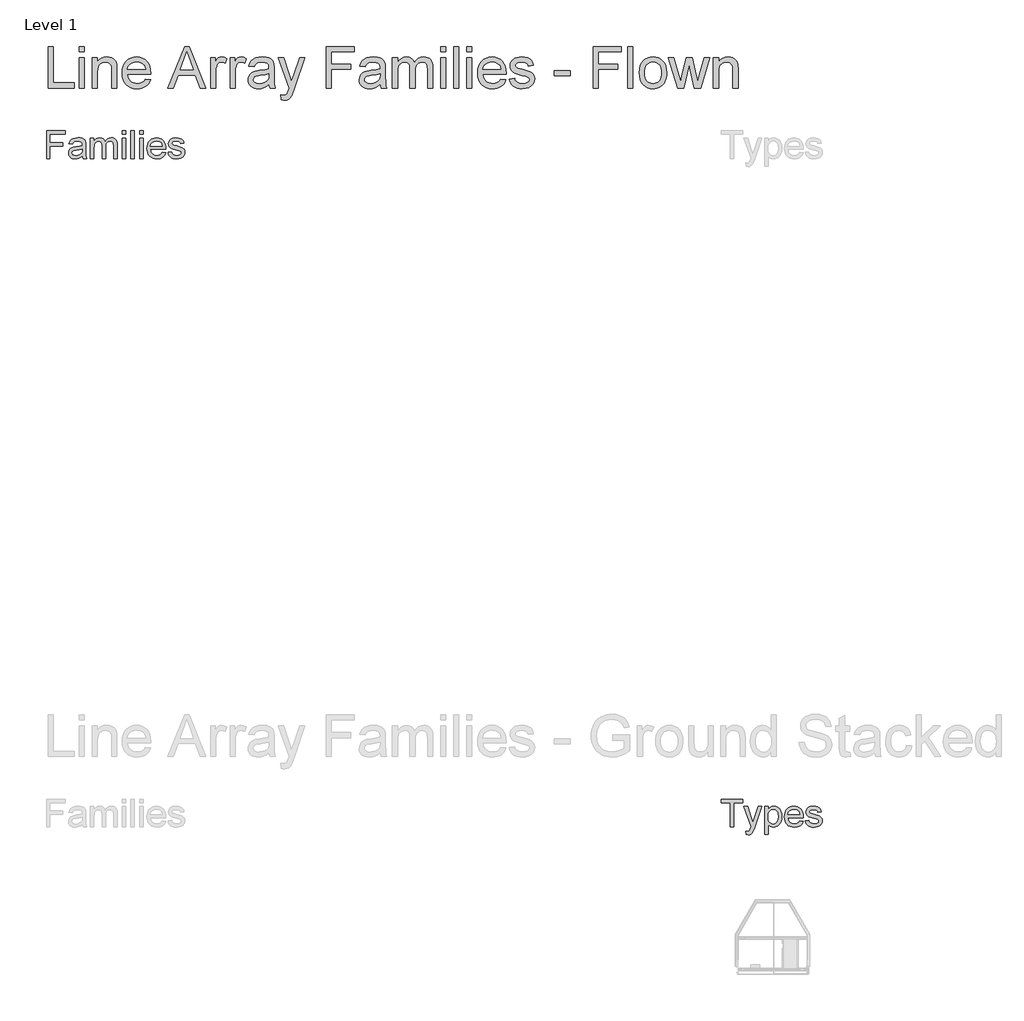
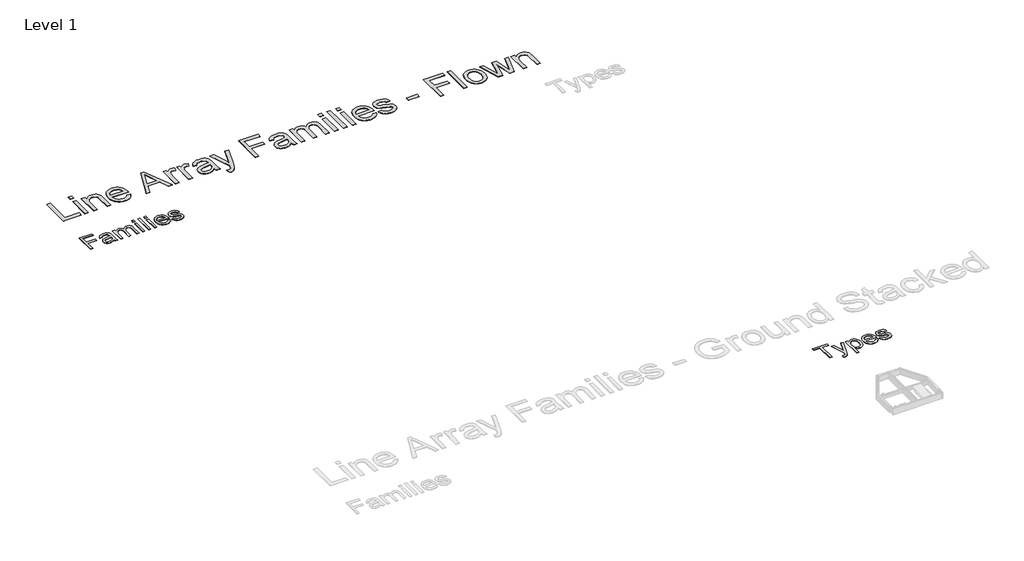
# One storey, part 4 of 7: 3 proxies.
"""IFC4 building model written with IfcOpenShell, lengths in millimetres."""

import ifcopenshell
import ifcopenshell.guid

model = None  # the IFC model being written
_history = None  # IfcOwnerHistory: only IFC2X3 demands one
_inside = {}  # id of a spatial element -> (the spatial element, [elements in it])
_under = {}  # id of a project, library or spatial element -> (it, [spatial elements below it])
_declared = {}  # id of a project -> (the project, [libraries it declares])
_typed = {}  # id of a type object -> (the type object, [elements of that type])
_made_of = {}  # id of a material, layer set ... -> (it, [elements and type objects made of it])


def new_model(schema):
    """Start an empty IFC model of exactly this schema.

    Asked for "IFC4X3", IfcOpenShell would pick the latest addendum, in which some entities
    have other attributes; the version numbers below select the first issue.
    IFC2X3 requires an IfcOwnerHistory on every rooted entity: one is made here for all.
    """
    global model, _history
    if schema == "IFC4X3":
        model = ifcopenshell.file(schema_version=(4, 3, 0, 0))
    else:
        model = ifcopenshell.file(schema=schema)
    _inside.clear()
    _under.clear()
    _declared.clear()
    _typed.clear()
    _made_of.clear()
    _history = None
    if model.schema == "IFC2X3":
        org = make("IfcOrganization", Name="unknown")
        user = make(
            "IfcPersonAndOrganization",
            ThePerson=make("IfcPerson", FamilyName="unknown"),
            TheOrganization=org,
        )
        app = make(
            "IfcApplication",
            ApplicationDeveloper=org,
            Version="unknown",
            ApplicationFullName="unknown",
            ApplicationIdentifier="unknown",
        )
        _history = make(
            "IfcOwnerHistory",
            OwningUser=user,
            OwningApplication=app,
            ChangeAction="ADDED",
            CreationDate=0,
        )
    return model


def make(cls, **values):
    """One entity of the class cls with the attributes given. An attribute that is None is left unset."""
    return model.create_entity(
        cls, **{name: value for name, value in values.items() if value is not None}
    )


def rooted(cls, **values):
    """An entity with a GlobalId (a new one), such as an element, a storey or a relation."""
    return make(cls, GlobalId=ifcopenshell.guid.new(), OwnerHistory=_history, **values)


def si_unit(unit_type, name, prefix=None):
    """IfcSIUnit, for example si_unit("LENGTHUNIT", "METRE", prefix="MILLI")."""
    return make("IfcSIUnit", UnitType=unit_type, Prefix=prefix, Name=name)


def assignment(units):
    """IfcUnitAssignment: the units of a project."""
    return None if units is None else make("IfcUnitAssignment", Units=units)


def point(xyz):
    """IfcCartesianPoint."""
    return None if xyz is None else make("IfcCartesianPoint", Coordinates=xyz)


def direction(xyz):
    """IfcDirection."""
    return None if xyz is None else make("IfcDirection", DirectionRatios=xyz)


def frame(location, z_axis=None, x_axis=None):
    """IfcAxis2Placement3D, a coordinate frame: its origin and axes. An axis left out is left unset."""
    return make(
        "IfcAxis2Placement3D",
        Location=point(location),
        Axis=direction(z_axis),
        RefDirection=direction(x_axis),
    )


def origin():
    """The frame at (0, 0, 0) with its axes left unset."""
    return frame((0.0, 0.0, 0.0))


def origin_with_axes():
    """The frame at (0, 0, 0) with the z axis (0, 0, 1) and the x axis (1, 0, 0) written out."""
    return frame((0.0, 0.0, 0.0), z_axis=(0.0, 0.0, 1.0), x_axis=(1.0, 0.0, 0.0))


def place(relative_to, where):
    """IfcLocalPlacement: puts the frame where relative to a parent placement (None: the world)."""
    return make(
        "IfcLocalPlacement", PlacementRelTo=relative_to, RelativePlacement=where
    )


def context(
    kind, dimensions, precision=None, world=None, true_north=None, identifier=None
):
    """IfcGeometricRepresentationContext, for example the 3D "Model" context."""
    return make(
        "IfcGeometricRepresentationContext",
        ContextIdentifier=identifier,
        ContextType=kind,
        CoordinateSpaceDimension=dimensions,
        Precision=precision,
        WorldCoordinateSystem=world,
        TrueNorth=true_north,
    )


def project(units=None, contexts=None):
    """IfcProject with its units and contexts."""
    return rooted(
        "IfcProject",
        Name="project",
        RepresentationContexts=contexts,
        UnitsInContext=assignment(units),
    )


def spatial(cls, under=None, at=None, **own):
    """A site, building, storey or space (cls), placed at a placement, below another one or the project."""
    s = rooted(cls, ObjectPlacement=at, **own)
    if under is not None:
        _under.setdefault(under.id(), (under, []))[1].append(s)
    return s


def polyline(points):
    """IfcPolyline through the points."""
    return make("IfcPolyline", Points=[point(p) for p in points])


def outline(outer, holes=None, kind="AREA"):
    """IfcArbitraryClosedProfileDef: a profile drawn as a closed curve; with holes, ...WithVoids."""
    if holes is None:
        return make("IfcArbitraryClosedProfileDef", ProfileType=kind, OuterCurve=outer)
    return make(
        "IfcArbitraryProfileDefWithVoids",
        ProfileType=kind,
        OuterCurve=outer,
        InnerCurves=holes,
    )


def extrude(swept, where, along, depth):
    """IfcExtrudedAreaSolid: the profile swept, set in the frame where, extruded along a direction by depth."""
    return make(
        "IfcExtrudedAreaSolid",
        SweptArea=swept,
        Position=where,
        ExtrudedDirection=direction(along),
        Depth=depth,
    )


def shape(context_of_items, identifier, shape_type, items):
    """IfcShapeRepresentation: the items that make up one representation, for example the "Body"."""
    return make(
        "IfcShapeRepresentation",
        ContextOfItems=context_of_items,
        RepresentationIdentifier=identifier,
        RepresentationType=shape_type,
        Items=items,
    )


def made_of(thing, what):
    """Note that an element or type object is made of a material, layer set ...; save() writes the relation."""
    if what is not None:
        _made_of.setdefault(what.id(), (what, []))[1].append(thing)
    return thing


def element(
    cls,
    number,
    at=None,
    inside=None,
    cuts=None,
    type_object=None,
    material=None,
    context=None,
    identifier="Body",
    shape_type=None,
    held_by="IfcProductDefinitionShape",
    body=None,
    shapes=None,
    **own,
):
    """One element of the class cls, such as IfcWall. Its Tag is "e" and its number.

    at: its placement. inside: the storey or other place that contains it. cuts: it is an
    opening in that element (IfcRelVoidsElement). A single representation is given by context,
    identifier, shape_type and body (its items); several are given by shapes. held_by: the class
    of the entity that holds the representations. save() writes the other relations.
    """
    e = rooted(cls, Tag="e%d" % number, ObjectPlacement=at, **own)
    if body is not None:
        shapes = [shape(context, identifier, shape_type, body)]
    if shapes is not None:
        e.Representation = make(held_by, Representations=shapes)
    if inside is not None:
        _inside.setdefault(inside.id(), (inside, []))[1].append(e)
    if cuts is not None:
        rooted(
            "IfcRelVoidsElement", RelatingBuildingElement=cuts, RelatedOpeningElement=e
        )
    if type_object is not None:
        _typed.setdefault(type_object.id(), (type_object, []))[1].append(e)
    return made_of(e, material)


def aggregate(whole, parts):
    """IfcRelAggregates: a whole, such as a stair, and the parts it consists of."""
    return rooted("IfcRelAggregates", RelatingObject=whole, RelatedObjects=parts)


def save(model, path):
    """Write the relations noted so far, then the file.

    IfcRelAggregates (storeys below a building ...), IfcRelContainedInSpatialStructure (elements
    in a storey), IfcRelDefinesByType, IfcRelAssociatesMaterial and IfcRelDeclares: one each for
    every whole, place, type object, material and project.
    """
    for whole, parts in _under.values():
        aggregate(whole, parts)
    for where, things in _inside.values():
        rooted(
            "IfcRelContainedInSpatialStructure",
            RelatedElements=things,
            RelatingStructure=where,
        )
    for kind, things in _typed.values():
        rooted("IfcRelDefinesByType", RelatedObjects=things, RelatingType=kind)
    for what, things in _made_of.values():
        rooted("IfcRelAssociatesMaterial", RelatedObjects=things, RelatingMaterial=what)
    for by, libraries in _declared.values():
        rooted("IfcRelDeclares", RelatingContext=by, RelatedDefinitions=libraries)
    model.write(path)


model = new_model("IFC4")

# Units and contexts
model_context = context("Model", 3, world=origin())
ifc_project = project(units=[si_unit("LENGTHUNIT", "METRE", prefix="MILLI")], contexts=[model_context])

# Site, building, storey
site = spatial("IfcSite", under=ifc_project)
building = spatial("IfcBuilding", under=site)
storey = spatial("IfcBuildingStorey", under=building, Name="Level 1", Elevation=0.0)

# Proxies
placement = place(None, origin())
element("IfcBuildingElementProxy", 1, Name="400mm Arial", ObjectType="400mm Arial", at=placement, inside=storey, context=model_context, shape_type="SweptSolid", body=[
    extrude(outline(polyline([(-21056.720891, 6751.3054836), (-21056.720891, 7143.0630593), (-20793.5087698, 7143.0630593), (-20793.5087698, 7094.0933624), (-21007.7511941, 7094.0933624), (-21007.7511941, 6977.7903321), (-20824.1148304, 6977.7903321), (-20824.1148304, 6928.8206351), (-21007.7511941, 6928.8206351), (-21007.7511941, 6751.3054836), (-21056.720891, 6751.3054836)])), origin_with_axes(), (0.0, 0.0, 1.0), 5.0),
    extrude(outline(polyline([(-20548.660285, 6788.0327563), (-20572.0571836, 6767.97144), (-20596.1475009, 6754.8443093), (-20621.4811893, 6747.5992809), (-20648.6082016, 6745.1842715), (-20670.4120309, 6746.6368638), (-20689.5318522, 6750.9946408), (-20705.9676654, 6758.2576024), (-20719.7194706, 6768.4257487), (-20730.5780466, 6780.8534831), (-20738.3341723, 6794.895209), (-20742.9878477, 6810.5509263), (-20744.5390729, 6827.8206351), (-20742.1957963, 6848.1210612), (-20735.1659668, 6866.5564305), (-20724.3223352, 6882.3376805), (-20710.5376524, 6894.6757487), (-20676.2493001, 6910.7439305), (-20633.879035, 6918.1085139), (-20583.8094327, 6925.855673), (-20548.9472168, 6934.9418472), (-20548.660285, 6945.8452563), (-20552.0317338, 6967.6998965), (-20562.1460804, 6981.9986654), (-20584.7658721, 6992.6151427), (-20616.2805501, 6996.1539684), (-20645.4519516, 6993.7987364), (-20665.8241107, 6986.7330404), (-20679.7163929, 6973.6656872), (-20689.4481638, 6953.3054836), (-20738.4178607, 6959.4266957), (-20729.9175056, 6986.2069987), (-20717.2327282, 7007.2486654), (-20699.1799346, 7023.3407582), (-20674.5755312, 7035.2723396), (-20644.4835568, 7042.660834), (-20609.9680501, 7045.1236654), (-20576.8632916, 7042.9477658), (-20550.6209857, 7036.4200669), (-20530.8346458, 7026.6046076), (-20517.097785, 7014.5654268), (-20507.9876997, 6999.6808387), (-20502.0816865, 6981.3291578), (-20499.690588, 6938.480673), (-20499.690588, 6877.5554836), (-20497.2038456, 6792.4801995), (-20487.4481638, 6751.3054836), (-20536.4178607, 6751.3054836), (-20544.2606638, 6768.3301048), (-20548.660285, 6788.0327563)]), holes=[polyline([(-20548.660285, 6885.9721502), (-20581.5618001, 6877.8185044), (-20627.6621789, 6870.9560518), (-20669.7933342, 6863.0176048), (-20680.7565208, 6857.5898112), (-20688.8743001, 6850.105673), (-20693.8956069, 6841.1390536), (-20695.5693759, 6831.2638169), (-20691.9229507, 6816.7020271), (-20680.9836751, 6804.7704457), (-20662.990659, 6796.8080877), (-20638.1830122, 6794.1539684), (-20611.8809289, 6797.0830641), (-20588.6394516, 6805.870351), (-20569.7975956, 6818.8181493), (-20556.6943759, 6834.228779), (-20550.8840066, 6850.105673), (-20548.9472168, 6872.103779), (-20548.660285, 6885.9721502)])]), origin_with_axes(), (0.0, 0.0, 1.0), 5.0),
    extrude(outline(polyline([(-20432.3572547, 6751.3054836), (-20432.3572547, 7039.0024533), (-20383.3875577, 7039.0024533), (-20383.3875577, 6991.6587033), (-20368.658391, 7013.405744), (-20349.720891, 7030.4423207), (-20327.2206543, 7041.4533292), (-20301.8032774, 7045.1236654), (-20274.5686657, 7041.3815963), (-20252.7379365, 7030.1553889), (-20236.4306448, 7012.1862838), (-20225.7663456, 6988.2155215), (-20207.9167954, 7013.1128344), (-20187.5565918, 7030.8966294), (-20164.6857348, 7041.5669064), (-20139.3042244, 7045.1236654), (-20119.7002057, 7043.6441732), (-20102.4932632, 7039.2056966), (-20087.683397, 7031.8082357), (-20075.2706069, 7021.4517904), (-20065.4581365, 7008.0168058), (-20058.4492291, 6991.3837269), (-20054.2438846, 6971.5525539), (-20052.8421032, 6948.5232866), (-20052.8421032, 6751.3054836), (-20101.8118001, 6751.3054836), (-20101.8118001, 6927.4816199), (-20106.3548872, 6968.369404), (-20112.7391202, 6979.6434334), (-20122.8056448, 6988.5024533), (-20135.7534431, 6994.2410896), (-20150.7814971, 6996.1539684), (-20177.3107348, 6991.2522165), (-20198.9382206, 6976.5469608), (-20207.3279874, 6965.2669537), (-20213.320678, 6951.03394), (-20218.1148304, 6913.7088927), (-20218.1148304, 6751.3054836), (-20267.0845274, 6751.3054836), (-20267.0845274, 6932.9333245), (-20269.9179791, 6960.6222449), (-20278.4183342, 6980.3727184), (-20293.3746552, 6992.2086559), (-20315.5760047, 6996.1539684), (-20334.4417717, 6993.5237601), (-20351.8250577, 6985.6331351), (-20366.1716486, 6972.6733813), (-20375.9273304, 6954.8357866), (-20381.5225009, 6930.0879173), (-20383.3875577, 6896.3973396), (-20383.3875577, 6751.3054836), (-20432.3572547, 6751.3054836)])), origin_with_axes(), (0.0, 0.0, 1.0), 5.0),
    extrude(outline(polyline([(-19979.3875577, 6751.3054836), (-19979.3875577, 7039.0024533), (-19930.4178607, 7039.0024533), (-19930.4178607, 6751.3054836), (-19979.3875577, 6751.3054836)])), origin_with_axes(), (0.0, 0.0, 1.0), 5.0),
    extrude(outline(polyline([(-19979.3875577, 7094.0933624), (-19979.3875577, 7143.0630593), (-19930.4178607, 7143.0630593), (-19930.4178607, 7094.0933624), (-19979.3875577, 7094.0933624)])), origin_with_axes(), (0.0, 0.0, 1.0), 5.0),
    extrude(outline(polyline([(-19856.9633153, 6751.3054836), (-19856.9633153, 7143.0630593), (-19807.9936183, 7143.0630593), (-19807.9936183, 6751.3054836), (-19856.9633153, 6751.3054836)])), origin_with_axes(), (0.0, 0.0, 1.0), 5.0),
    extrude(outline(polyline([(-19734.5390729, 6751.3054836), (-19734.5390729, 7039.0024533), (-19685.5693759, 7039.0024533), (-19685.5693759, 6751.3054836), (-19734.5390729, 6751.3054836)])), origin_with_axes(), (0.0, 0.0, 1.0), 5.0),
    extrude(outline(polyline([(-19734.5390729, 7094.0933624), (-19734.5390729, 7143.0630593), (-19685.5693759, 7143.0630593), (-19685.5693759, 7094.0933624), (-19734.5390729, 7094.0933624)])), origin_with_axes(), (0.0, 0.0, 1.0), 5.0),
    extrude(outline(polyline([(-19410.6886941, 6837.0024533), (-19362.6754365, 6830.8812411), (-19370.0370309, 6811.6508316), (-19379.975034, 6794.7039211), (-19392.4894457, 6780.0405096), (-19407.580266, 6767.6605972), (-19425.0920736, 6757.8272047), (-19444.8694469, 6750.8033529), (-19491.220891, 6745.1842715), (-19521.605775, 6747.6082475), (-19548.6789876, 6754.8801758), (-19572.4405288, 6767.0000563), (-19592.8903986, 6783.9678889), (-19609.3351784, 6805.3114317), (-19621.0814497, 6830.5584429), (-19628.1292125, 6859.7089223), (-19630.4784668, 6892.7628699), (-19628.1053015, 6926.937645), (-19620.9858058, 6957.0595082), (-19609.1199796, 6983.1284594), (-19592.5078229, 7005.1444987), (-19572.1117528, 7022.6353841), (-19548.8941865, 7035.1288737), (-19522.855124, 7042.6249675), (-19493.9945653, 7045.1236654), (-19466.0635461, 7042.6309452), (-19440.8045795, 7035.1527847), (-19418.2176654, 7022.6891839), (-19398.3028039, 7005.2401427), (-19382.0463231, 6983.2719253), (-19370.4345511, 6957.2507961), (-19363.4674879, 6927.1767549), (-19361.1451335, 6893.0498018), (-19361.4320653, 6879.8509381), (-19581.5087698, 6879.8509381), (-19578.6723292, 6860.3096858), (-19573.0323257, 6843.1953983), (-19564.5887592, 6828.5080759), (-19553.3416297, 6816.2477184), (-19524.9234242, 6799.6774059), (-19490.2644516, 6794.1539684), (-19464.2014782, 6796.7124438), (-19442.2511941, 6804.3878699), (-19424.4135994, 6817.6584665), (-19410.6886941, 6837.0024533)]), holes=[polyline([(-19581.5087698, 6928.8206351), (-19410.1148304, 6928.8206351), (-19416.7381732, 6954.6923207), (-19429.721838, 6973.199423), (-19443.076123, 6983.2420366), (-19458.2715539, 6990.4153321), (-19494.1858532, 6996.1539684), (-19527.1949677, 6991.5750148), (-19554.4893569, 6977.838154), (-19573.4627234, 6956.4258671), (-19581.5087698, 6928.8206351)])]), origin_with_axes(), (0.0, 0.0, 1.0), 5.0),
    extrude(outline(polyline([(-19330.5390729, 6837.0024533), (-19281.5693759, 6843.1236654), (-19273.8461278, 6822.1776427), (-19258.9017622, 6806.7789684), (-19236.6406354, 6797.3102184), (-19206.9671032, 6794.1539684), (-19177.6522357, 6797.0471976), (-19157.0409668, 6805.7268851), (-19144.8463645, 6818.3040631), (-19140.7814971, 6832.8897639), (-19144.8702755, 6845.371298), (-19157.1366107, 6854.8878699), (-19207.5409668, 6868.8518851), (-19281.2824441, 6892.8106919), (-19299.9449677, 6904.8498728), (-19313.4666297, 6920.7865442), (-19321.680053, 6939.6044893), (-19324.4178607, 6960.2874911), (-19322.2180501, 6979.2608576), (-19315.6186183, 6996.775654), (-19305.2173399, 7012.1384618), (-19291.6119895, 7024.6558624), (-19260.4798872, 7039.1459192), (-19218.3487319, 7045.1236654), (-19186.4753891, 7042.7206114), (-19158.7625577, 7035.5114495), (-19136.4775198, 7024.2015536), (-19120.8875577, 7009.496298), (-19110.5580122, 6990.3077326), (-19104.0542244, 6965.5479078), (-19153.0239213, 6959.4266957), (-19159.2049109, 6974.8373254), (-19171.4353797, 6986.4461086), (-19189.8348825, 6993.7270035), (-19214.5229744, 6996.1539684), (-19242.6422925, 6993.8346029), (-19261.3885047, 6986.8765063), (-19271.933249, 6976.8338927), (-19275.4481638, 6965.260976), (-19269.6138835, 6951.010029), (-19251.345891, 6940.2022639), (-19209.1669138, 6929.7770745), (-19137.2904933, 6906.7268851), (-19118.3051713, 6895.7039211), (-19103.9107585, 6880.6160896), (-19094.8365397, 6861.4155688), (-19091.8118001, 6838.0545366), (-19095.3625814, 6813.9044419), (-19106.0149251, 6791.1890063), (-19123.3623446, 6771.6895982), (-19146.9983532, 6757.1875858), (-19175.5480691, 6748.1851), (-19207.6366107, 6745.1842715), (-19233.9924938, 6746.630886), (-19257.0127944, 6750.9707298), (-19276.6975127, 6758.2038027), (-19293.0466486, 6768.3301048), (-19306.4009336, 6781.3018141), (-19317.1010994, 6797.0711086), (-19325.1471458, 6815.6379883), (-19330.5390729, 6837.0024533)])), origin_with_axes(), (0.0, 0.0, 1.0), 5.0),
])
element("IfcBuildingElementProxy", 2, Name="400mm Arial", ObjectType="400mm Arial", at=placement, inside=storey, context=model_context, shape_type="SweptSolid", body=[
    extrude(outline(polyline([(-11345.9583027, -2748.6945164), (-11345.9583027, -2405.9066376), (-11474.5037572, -2405.9066376), (-11474.5037572, -2356.9369407), (-11168.4431512, -2356.9369407), (-11168.4431512, -2405.9066376), (-11296.9886057, -2405.9066376), (-11296.9886057, -2748.6945164), (-11345.9583027, -2748.6945164)])), origin_with_axes(), (0.0, 0.0, 1.0), 5.0),
    extrude(outline(polyline([(-11119.4734542, -2858.8763346), (-11125.5946663, -2811.7238725), (-11100.7272421, -2816.0278498), (-11087.6479334, -2814.6768791), (-11077.4857648, -2810.6239672), (-11063.2348179, -2795.5600467), (-11049.8446663, -2759.5022816), (-11046.0189088, -2747.6424331), (-11150.0795148, -2460.9975467), (-11098.4317875, -2460.9975467), (-11043.2452345, -2620.7229255), (-11024.0208027, -2684.613077), (-11004.7963709, -2628.1831528), (-10948.0795148, -2460.9975467), (-10896.8143633, -2460.9975467), (-10996.9535679, -2755.5808801), (-11022.9687194, -2819.4710316), (-11036.2871379, -2839.8671017), (-11051.3749694, -2853.9984937), (-11068.9017213, -2862.2477835), (-11089.5369012, -2864.9975467), (-11119.4734542, -2858.8763346)])), origin_with_axes(), (0.0, 0.0, 1.0), 5.0),
    extrude(outline(polyline([(-10856.261333, -2858.8763346), (-10856.261333, -2460.9975467), (-10807.291636, -2460.9975467), (-10807.291636, -2509.0108043), (-10791.3190982, -2485.3269738), (-10773.4336815, -2468.409952), (-10752.5833027, -2458.259739), (-10727.7158785, -2454.8763346), (-10694.5991644, -2459.6107096), (-10665.6429618, -2473.8138346), (-10642.0667307, -2496.6249142), (-10625.0899315, -2527.1831528), (-10614.832119, -2563.2648289), (-10611.4128482, -2602.646221), (-10615.2744722, -2644.5263109), (-10626.8593444, -2681.9828687), (-10645.7968444, -2713.114971), (-10671.7163519, -2736.0216945), (-10701.9039703, -2750.11722), (-10733.6458027, -2754.8157285), (-10756.1579949, -2751.671434), (-10776.2551777, -2742.2385505), (-10793.4591313, -2727.999559), (-10807.291636, -2710.4369407), (-10807.291636, -2858.8763346), (-10856.261333, -2858.8763346)]), holes=[polyline([(-10807.291636, -2607.1414861), (-10801.9953529, -2651.0420543), (-10795.374999, -2668.0427645), (-10786.1065035, -2681.7437589), (-10762.6617828, -2699.8204634), (-10749.2447314, -2704.3396395), (-10734.697886, -2705.8460316), (-10719.9418195, -2704.2858398), (-10706.2796805, -2699.6052645), (-10682.2371853, -2680.8829634), (-10672.6757802, -2666.6858161), (-10665.8462052, -2649.0574426), (-10660.3825451, -2603.5070164), (-10665.7146947, -2559.8455581), (-10672.3798818, -2542.7133375), (-10681.7111436, -2528.7134558), (-10705.1199978, -2510.0628876), (-10718.3846166, -2505.4002456), (-10732.6893633, -2503.8460316), (-10746.9492769, -2505.4988784), (-10760.3663283, -2510.4574189), (-10784.6718444, -2530.2915808), (-10794.5680032, -2545.0117809), (-10801.6366881, -2562.7268318), (-10805.8778991, -2583.4367335), (-10807.291636, -2607.1414861)])]), origin_with_axes(), (0.0, 0.0, 1.0), 5.0),
    extrude(outline(polyline([(-10354.8958027, -2662.9975467), (-10306.8825451, -2669.1187589), (-10314.2441396, -2688.3491684), (-10324.1821427, -2705.2960789), (-10336.6965544, -2719.9594904), (-10351.7873747, -2732.3394028), (-10369.2991822, -2742.1727953), (-10389.0765555, -2749.1966471), (-10435.4279997, -2754.8157285), (-10465.8128837, -2752.3917525), (-10492.8860963, -2745.1198242), (-10516.6476375, -2732.9999437), (-10537.0975072, -2716.0321111), (-10553.5422871, -2694.6885683), (-10565.2885584, -2669.4415571), (-10572.3363212, -2640.2910777), (-10574.6855754, -2607.2371301), (-10572.3124102, -2573.062355), (-10565.1929144, -2542.9404918), (-10553.3270882, -2516.8715406), (-10536.7149315, -2494.8555013), (-10516.3188614, -2477.3646159), (-10493.1012951, -2464.8711263), (-10467.0622326, -2457.3750325), (-10438.2016739, -2454.8763346), (-10410.2706547, -2457.3690548), (-10385.0116881, -2464.8472153), (-10362.4247741, -2477.3108161), (-10342.5099125, -2494.7598573), (-10326.2534317, -2516.7280747), (-10314.6416597, -2542.7492039), (-10307.6745965, -2572.8232451), (-10305.3522421, -2606.9501982), (-10305.6391739, -2620.1490619), (-10525.7158785, -2620.1490619), (-10522.8794379, -2639.6903142), (-10517.2394343, -2656.8046017), (-10508.7958678, -2671.4919241), (-10497.5487383, -2683.7522816), (-10469.1305328, -2700.3225941), (-10434.4715603, -2705.8460316), (-10408.4085868, -2703.2875562), (-10386.4583027, -2695.6121301), (-10368.620708, -2682.3415335), (-10354.8958027, -2662.9975467)]), holes=[polyline([(-10525.7158785, -2571.1793649), (-10354.3219391, -2571.1793649), (-10360.9452819, -2545.3076793), (-10373.9289466, -2526.800577), (-10387.2832317, -2516.7579634), (-10402.4786625, -2509.5846679), (-10438.3929618, -2503.8460316), (-10471.4020764, -2508.4249852), (-10498.6964656, -2522.161846), (-10517.6698321, -2543.5741329), (-10525.7158785, -2571.1793649)])]), origin_with_axes(), (0.0, 0.0, 1.0), 5.0),
    extrude(outline(polyline([(-10274.7461815, -2662.9975467), (-10225.7764845, -2656.8763346), (-10218.0532364, -2677.8223573), (-10203.1088709, -2693.2210316), (-10180.847744, -2702.6897816), (-10151.1742118, -2705.8460316), (-10121.8593444, -2702.9528024), (-10101.2480754, -2694.2731149), (-10089.0534732, -2681.6959369), (-10084.9886057, -2667.1102361), (-10089.0773841, -2654.628702), (-10101.3437194, -2645.1121301), (-10151.7480754, -2631.1481149), (-10225.4895527, -2607.1893081), (-10244.1520764, -2595.1501272), (-10257.6737383, -2579.2134558), (-10265.8871616, -2560.3955107), (-10268.6249694, -2539.7125089), (-10266.4251588, -2520.7391424), (-10259.8257269, -2503.224346), (-10249.4244485, -2487.8615382), (-10235.8190982, -2475.3441376), (-10204.6869959, -2460.8540808), (-10162.5558406, -2454.8763346), (-10130.6824978, -2457.2793886), (-10102.9696663, -2464.4885505), (-10080.6846285, -2475.7984464), (-10065.0946663, -2490.503702), (-10054.7651209, -2509.6922674), (-10048.261333, -2534.4520922), (-10097.23103, -2540.5733043), (-10103.4120196, -2525.1626746), (-10115.6424883, -2513.5538914), (-10134.0419911, -2506.2729965), (-10158.730083, -2503.8460316), (-10186.8494012, -2506.1653971), (-10205.5956133, -2513.1234937), (-10216.1403576, -2523.1661073), (-10219.6552724, -2534.739024), (-10213.8209921, -2548.989971), (-10195.5529997, -2559.7977361), (-10153.3740224, -2570.2229255), (-10081.4976019, -2593.2731149), (-10062.51228, -2604.2960789), (-10048.1178671, -2619.3839104), (-10039.0436483, -2638.5844312), (-10036.0189088, -2661.9454634), (-10039.56969, -2686.0955581), (-10050.2220338, -2708.8109937), (-10067.5694533, -2728.3104018), (-10091.2054618, -2742.8124142), (-10119.7551777, -2751.8149), (-10151.8437194, -2754.8157285), (-10178.1996024, -2753.369114), (-10201.2199031, -2749.0292702), (-10220.9046214, -2741.7961973), (-10237.2537572, -2731.6698952), (-10250.6080423, -2718.6981859), (-10261.308208, -2702.9288914), (-10269.3542544, -2684.3620117), (-10274.7461815, -2662.9975467)])), origin_with_axes(), (0.0, 0.0, 1.0), 5.0),
])
element("IfcBuildingElementProxy", 3, Name="600mm Arial", ObjectType="600mm Arial", at=placement, inside=storey, context=model_context, shape_type="SweptSolid", body=[
    extrude(outline(polyline([(-21034.9539913, 7751.3054836), (-21034.9539913, 8342.0747143), (-20961.1078374, 8342.0747143), (-20961.1078374, 7825.1516374), (-20665.723222, 7825.1516374), (-20665.723222, 7751.3054836), (-21034.9539913, 7751.3054836)])), origin_with_axes(), (0.0, 0.0, 1.0), 5.0),
    extrude(outline(polyline([(-20591.8770682, 8268.2285605), (-20591.8770682, 8342.0747143), (-20518.0309143, 8342.0747143), (-20518.0309143, 8268.2285605), (-20591.8770682, 8268.2285605)])), origin_with_axes(), (0.0, 0.0, 1.0), 5.0),
    extrude(outline(polyline([(-20591.8770682, 7751.3054836), (-20591.8770682, 8185.1516374), (-20518.0309143, 8185.1516374), (-20518.0309143, 7751.3054836), (-20591.8770682, 7751.3054836)])), origin_with_axes(), (0.0, 0.0, 1.0), 5.0),
    extrude(outline(polyline([(-20407.2616836, 7751.3054836), (-20407.2616836, 8185.1516374), (-20333.4155297, 8185.1516374), (-20333.4155297, 8124.5747143), (-20307.7604817, 8155.1155797), (-20276.9491836, 8176.9304836), (-20240.9816355, 8190.0194259), (-20199.8578374, 8194.3824066), (-20163.457597, 8190.8667816), (-20130.1222605, 8180.3199066), (-20102.3217797, 8164.0578874), (-20082.5261067, 8143.3968297), (-20069.0946163, 8118.3908201), (-20060.3866836, 8089.0939451), (-20056.4924528, 8017.6997143), (-20056.4924528, 7751.3054836), (-20130.3386067, 7751.3054836), (-20130.3386067, 8007.7477913), (-20132.4660105, 8045.9328874), (-20138.848222, 8073.0843297), (-20150.6210586, 8092.5374547), (-20168.9203374, 8107.627599), (-20192.3758663, 8117.3090893), (-20219.6174528, 8120.5362528), (-20242.0408302, 8118.7243538), (-20262.8686547, 8113.2886566), (-20282.1009264, 8104.2291615), (-20299.7376451, 8091.5458682), (-20314.4717196, 8073.7964691), (-20324.9960586, 8049.5386566), (-20331.3106619, 8018.7724307), (-20333.4155297, 7981.4977913), (-20333.4155297, 7751.3054836), (-20407.2616836, 7751.3054836)])), origin_with_axes(), (0.0, 0.0, 1.0), 5.0),
    extrude(outline(polyline([(-19651.2039913, 7880.5362528), (-19578.8001451, 7871.3054836), (-19589.9014071, 7842.3060845), (-19604.8878855, 7816.7501951), (-19623.7595802, 7794.6378153), (-19646.5164913, 7775.9689451), (-19672.9242437, 7761.1402191), (-19702.7484624, 7750.548272), (-19735.9891475, 7744.1931038), (-19772.646299, 7742.0747143), (-19818.4666115, 7745.7300629), (-19859.2929336, 7756.6961086), (-19895.1252653, 7774.9728514), (-19925.9636067, 7800.5602913), (-19950.7622845, 7832.7462889), (-19968.4756259, 7870.8187047), (-19979.1036307, 7914.7775389), (-19982.646299, 7964.6227913), (-19979.067573, 8016.158248), (-19968.3313951, 8061.5819259), (-19950.4377653, 8100.8938249), (-19925.3866836, 8134.0939451), (-19894.629472, 8160.470147), (-19859.6174528, 8179.3102913), (-19820.3506259, 8190.6143778), (-19776.8289913, 8194.3824066), (-19734.7090994, 8190.6233922), (-19696.6186547, 8179.346349), (-19662.5576571, 8160.5512768), (-19632.5261067, 8134.2381759), (-19608.0113831, 8101.1101711), (-19590.5008663, 8061.8703874), (-19579.9945562, 8016.5188249), (-19576.4924528, 7965.0554836), (-19576.9251451, 7945.1516374), (-19908.8001451, 7945.1516374), (-19904.5228014, 7915.6834884), (-19896.0176932, 7889.8751951), (-19883.2848206, 7867.7267576), (-19866.3241836, 7849.2381759), (-19846.0732821, 7834.6618538), (-19823.4696163, 7824.2501951), (-19798.513186, 7818.0031999), (-19771.2039913, 7815.9208682), (-19731.9011067, 7819.7790413), (-19698.8001451, 7831.3535605), (-19671.9011067, 7851.3655797), (-19651.2039913, 7880.5362528)]), holes=[polyline([(-19908.8001451, 8018.9977913), (-19650.3386067, 8018.9977913), (-19660.3265874, 8058.0122143), (-19668.9173326, 8073.3547624), (-19679.9059143, 8085.9208682), (-19700.0441355, 8101.065099), (-19722.958799, 8111.8824066), (-19748.6499047, 8118.3727913), (-19777.1174528, 8120.5362528), (-19803.0834985, 8118.8099908), (-19826.895097, 8113.6312047), (-19848.5522485, 8104.9998946), (-19868.0549528, 8092.9160605), (-19884.4206379, 8077.9385966), (-19896.6667317, 8060.626397), (-19904.7932341, 8040.9794619), (-19908.8001451, 8018.9977913)])]), origin_with_axes(), (0.0, 0.0, 1.0), 5.0),
    extrude(outline(polyline([(-19331.4443759, 7751.3054836), (-19095.6270682, 8342.0747143), (-19032.7424528, 8342.0747143), (-18796.9251451, 7751.3054836), (-18874.9539913, 7751.3054836), (-18942.598222, 7935.9208682), (-19185.9155297, 7935.9208682), (-19253.4155297, 7751.3054836), (-19331.4443759, 7751.3054836)]), holes=[polyline([(-19158.8001451, 8009.767022), (-18969.5693759, 8009.767022), (-19022.7905297, 8155.0074066), (-19064.1847605, 8268.2285605), (-19100.9636067, 8167.6997143), (-19158.8001451, 8009.767022)])]), origin_with_axes(), (0.0, 0.0, 1.0), 5.0),
    extrude(outline(polyline([(-18727.2616836, 7751.3054836), (-18727.2616836, 8185.1516374), (-18662.646299, 8185.1516374), (-18662.646299, 8120.9689451), (-18638.7761067, 8158.1804836), (-18616.7809143, 8180.1035605), (-18594.7136067, 8190.8126951), (-18570.6270682, 8194.3824066), (-18533.848222, 8188.6852913), (-18496.4924528, 8171.5939451), (-18521.1559143, 8105.392022), (-18547.1174528, 8116.7501951), (-18573.0789913, 8120.5362528), (-18595.1282701, 8116.8944259), (-18614.833799, 8105.9689451), (-18630.7532701, 8088.5891374), (-18641.4443759, 8065.5843297), (-18650.4227413, 8024.3343297), (-18653.4155297, 7979.3343297), (-18653.4155297, 7751.3054836), (-18727.2616836, 7751.3054836)])), origin_with_axes(), (0.0, 0.0, 1.0), 5.0),
    extrude(outline(polyline([(-18450.3386067, 7751.3054836), (-18450.3386067, 8185.1516374), (-18385.723222, 8185.1516374), (-18385.723222, 8120.9689451), (-18361.8530297, 8158.1804836), (-18339.8578374, 8180.1035605), (-18317.7905297, 8190.8126951), (-18293.7039913, 8194.3824066), (-18256.9251451, 8188.6852913), (-18219.5693759, 8171.5939451), (-18244.2328374, 8105.392022), (-18270.1943759, 8116.7501951), (-18296.1559143, 8120.5362528), (-18318.2051932, 8116.8944259), (-18337.910722, 8105.9689451), (-18353.8301932, 8088.5891374), (-18364.521299, 8065.5843297), (-18373.4996643, 8024.3343297), (-18376.4924528, 7979.3343297), (-18376.4924528, 7751.3054836), (-18450.3386067, 7751.3054836)])), origin_with_axes(), (0.0, 0.0, 1.0), 5.0),
    extrude(outline(polyline([(-17896.4924528, 7806.690099), (-17931.7749047, 7776.4376951), (-17968.1030297, 7756.642022), (-18006.3061547, 7745.7165413), (-18047.2136067, 7742.0747143), (-18080.0937148, 7744.2652191), (-18108.926347, 7750.8367336), (-18133.7115033, 7761.7892576), (-18154.4491836, 7777.1227913), (-18170.8238831, 7795.8637768), (-18182.520097, 7817.0386566), (-18189.5378254, 7840.6474307), (-18191.8770682, 7866.690099), (-18188.3434143, 7897.3030797), (-18177.7424528, 7925.1035605), (-18161.3902893, 7948.9016374), (-18140.6030297, 7967.5074066), (-18116.1739432, 7981.5699066), (-18088.896299, 7991.7381759), (-18025.0020682, 8002.8439451), (-17949.4972605, 8014.5266374), (-17896.9251451, 8028.2285605), (-17896.4924528, 8044.6708682), (-17901.5765874, 8077.627599), (-17907.9317557, 8089.8331278), (-17916.8289913, 8099.190099), (-17932.207597, 8108.5290413), (-17950.9395682, 8115.1997143), (-17998.4636067, 8120.5362528), (-18042.4539913, 8116.9845701), (-18073.1751451, 8106.329522), (-18094.1246643, 8086.6239932), (-18108.8001451, 8055.9208682), (-18182.646299, 8065.1516374), (-18169.8277893, 8105.5362528), (-18150.6991836, 8137.267022), (-18123.4756259, 8161.533849), (-18086.3722605, 8179.5266374), (-18040.9936547, 8190.6684643), (-17988.9443759, 8194.3824066), (-17939.0225009, 8191.1011566), (-17899.4491836, 8181.2574066), (-17869.6114432, 8166.455724), (-17848.896299, 8148.3006759), (-17835.1583182, 8125.8547624), (-17826.2520682, 8098.1804836), (-17822.646299, 8033.565099), (-17822.646299, 7941.690099), (-17818.896299, 7813.3968297), (-17813.3434143, 7781.6840893), (-17804.1847605, 7751.3054836), (-17878.0309143, 7751.3054836), (-17889.8578374, 7776.9785605), (-17896.4924528, 7806.690099)]), holes=[polyline([(-17896.4924528, 7954.3824066), (-17946.1078374, 7942.0867336), (-18015.6270682, 7931.7381759), (-18079.160722, 7919.767022), (-18095.693174, 7911.5819259), (-18107.9347605, 7900.2958682), (-18115.5068759, 7886.7742336), (-18118.0309143, 7871.8824066), (-18112.5321163, 7849.923272), (-18096.035722, 7831.9304836), (-18068.9023086, 7819.923272), (-18031.4924528, 7815.9208682), (-17991.8289913, 7820.3379355), (-17956.7809143, 7833.5891374), (-17928.3674528, 7853.1143778), (-17908.6078374, 7876.3535605), (-17899.8458182, 7900.2958682), (-17896.9251451, 7933.4689451), (-17896.4924528, 7954.3824066)])]), origin_with_axes(), (0.0, 0.0, 1.0), 5.0),
    extrude(outline(polyline([(-17721.1078374, 7585.1516374), (-17730.3386067, 7656.2574066), (-17692.8386067, 7649.767022), (-17673.115049, 7651.8042816), (-17657.7905297, 7657.9160605), (-17645.8554336, 7667.6696663), (-17636.3001451, 7680.6324066), (-17616.1078374, 7735.0074066), (-17610.3386067, 7752.892022), (-17767.2616836, 8185.1516374), (-17689.3770682, 8185.1516374), (-17606.1559143, 7944.2862528), (-17577.1655297, 7847.940099), (-17548.1751451, 7933.0362528), (-17462.646299, 8185.1516374), (-17385.3386067, 8185.1516374), (-17536.348222, 7740.9208682), (-17575.5789913, 7644.5747143), (-17595.6631259, 7613.8175028), (-17618.4155297, 7592.5074066), (-17644.8458182, 7580.0675028), (-17675.9636067, 7575.9208682), (-17697.3458182, 7578.2285605), (-17721.1078374, 7585.1516374)])), origin_with_axes(), (0.0, 0.0, 1.0), 5.0),
    extrude(outline(polyline([(-17084.1847605, 7751.3054836), (-17084.1847605, 8342.0747143), (-16687.2616836, 8342.0747143), (-16687.2616836, 8268.2285605), (-17010.3386067, 8268.2285605), (-17010.3386067, 8092.8439451), (-16733.4155297, 8092.8439451), (-16733.4155297, 8018.9977913), (-17010.3386067, 8018.9977913), (-17010.3386067, 7751.3054836), (-17084.1847605, 7751.3054836)])), origin_with_axes(), (0.0, 0.0, 1.0), 5.0),
    extrude(outline(polyline([(-16318.0309143, 7806.690099), (-16353.3133663, 7776.4376951), (-16389.6414913, 7756.642022), (-16427.8446163, 7745.7165413), (-16468.7520682, 7742.0747143), (-16501.6321764, 7744.2652191), (-16530.4648086, 7750.8367336), (-16555.2499648, 7761.7892576), (-16575.9876451, 7777.1227913), (-16592.3623446, 7795.8637768), (-16604.0585586, 7817.0386566), (-16611.0762869, 7840.6474307), (-16613.4155297, 7866.690099), (-16609.8818759, 7897.3030797), (-16599.2809143, 7925.1035605), (-16582.9287509, 7948.9016374), (-16562.1414913, 7967.5074066), (-16537.7124047, 7981.5699066), (-16510.4347605, 7991.7381759), (-16446.5405297, 8002.8439451), (-16371.035722, 8014.5266374), (-16318.4636067, 8028.2285605), (-16318.0309143, 8044.6708682), (-16323.115049, 8077.627599), (-16329.4702172, 8089.8331278), (-16338.3674528, 8099.190099), (-16353.7460586, 8108.5290413), (-16372.4780297, 8115.1997143), (-16420.0020682, 8120.5362528), (-16463.9924528, 8116.9845701), (-16494.7136067, 8106.329522), (-16515.6631259, 8086.6239932), (-16530.3386067, 8055.9208682), (-16604.1847605, 8065.1516374), (-16591.3662509, 8105.5362528), (-16572.2376451, 8137.267022), (-16545.0140874, 8161.533849), (-16507.910722, 8179.5266374), (-16462.5321163, 8190.6684643), (-16410.4828374, 8194.3824066), (-16360.5609624, 8191.1011566), (-16320.9876451, 8181.2574066), (-16291.1499047, 8166.455724), (-16270.4347605, 8148.3006759), (-16256.6967797, 8125.8547624), (-16247.7905297, 8098.1804836), (-16244.1847605, 8033.565099), (-16244.1847605, 7941.690099), (-16240.4347605, 7813.3968297), (-16234.8818759, 7781.6840893), (-16225.723222, 7751.3054836), (-16299.5693759, 7751.3054836), (-16311.396299, 7776.9785605), (-16318.0309143, 7806.690099)]), holes=[polyline([(-16318.0309143, 7954.3824066), (-16367.646299, 7942.0867336), (-16437.1655297, 7931.7381759), (-16500.6991836, 7919.767022), (-16517.2316355, 7911.5819259), (-16529.473222, 7900.2958682), (-16537.0453374, 7886.7742336), (-16539.5693759, 7871.8824066), (-16534.0705778, 7849.923272), (-16517.5741836, 7831.9304836), (-16490.4407701, 7819.923272), (-16453.0309143, 7815.9208682), (-16413.3674528, 7820.3379355), (-16378.3193759, 7833.5891374), (-16349.9059143, 7853.1143778), (-16330.146299, 7876.3535605), (-16321.3842797, 7900.2958682), (-16318.4636067, 7933.4689451), (-16318.0309143, 7954.3824066)])]), origin_with_axes(), (0.0, 0.0, 1.0), 5.0),
    extrude(outline(polyline([(-16142.646299, 7751.3054836), (-16142.646299, 8185.1516374), (-16068.8001451, 8185.1516374), (-16068.8001451, 8113.7574066), (-16046.5886067, 8146.5518778), (-16018.0309143, 8172.2429836), (-15984.1006259, 8188.8475509), (-15945.771299, 8194.3824066), (-15904.7015874, 8188.7393778), (-15887.2226211, 8181.6855917), (-15871.7809143, 8171.8102913), (-15847.1895682, 8144.7129355), (-15831.1078374, 8108.565099), (-15804.1907701, 8146.1101711), (-15773.4876451, 8172.9280797), (-15738.9984624, 8189.0188249), (-15700.723222, 8194.3824066), (-15671.1604216, 8192.1513369), (-15645.2124047, 8185.4581278), (-15622.8791716, 8174.3027792), (-15604.160722, 8158.6852913), (-15589.3635466, 8138.4253754), (-15578.7941355, 8113.3427432), (-15572.4524889, 8083.4373946), (-15570.3386067, 8048.7093297), (-15570.3386067, 7751.3054836), (-15644.1847605, 7751.3054836), (-15644.1847605, 8016.9785605), (-15645.8975009, 8053.8114932), (-15651.035722, 8078.6372143), (-15660.6631259, 8095.6384163), (-15675.8434143, 8108.9977913), (-15695.3686547, 8117.6516374), (-15718.0309143, 8120.5362528), (-15738.9578975, 8118.6882961), (-15758.036924, 8113.1444259), (-15775.2679937, 8103.9046422), (-15790.6511067, 8090.9689451), (-15803.3028494, 8073.9587288), (-15812.3398086, 8052.4953874), (-15817.7619841, 8026.5789211), (-15819.5693759, 7996.2093297), (-15819.5693759, 7751.3054836), (-15893.4155297, 7751.3054836), (-15893.4155297, 8025.1997143), (-15897.6883663, 8066.954522), (-15910.5068759, 8096.7381759), (-15920.4182341, 8107.1498345), (-15933.0609624, 8114.5867336), (-15948.435061, 8119.048873), (-15966.5405297, 8120.5362528), (-15994.990049, 8116.5699066), (-16021.2039913, 8104.6708682), (-16042.8386067, 8085.127599), (-16057.5501451, 8058.2285605), (-16065.9876451, 8020.908849), (-16068.8001451, 7970.1035605), (-16068.8001451, 7751.3054836), (-16142.646299, 7751.3054836)])), origin_with_axes(), (0.0, 0.0, 1.0), 5.0),
    extrude(outline(polyline([(-15459.5693759, 8268.2285605), (-15459.5693759, 8342.0747143), (-15385.723222, 8342.0747143), (-15385.723222, 8268.2285605), (-15459.5693759, 8268.2285605)])), origin_with_axes(), (0.0, 0.0, 1.0), 5.0),
    extrude(outline(polyline([(-15459.5693759, 7751.3054836), (-15459.5693759, 8185.1516374), (-15385.723222, 8185.1516374), (-15385.723222, 7751.3054836), (-15459.5693759, 7751.3054836)])), origin_with_axes(), (0.0, 0.0, 1.0), 5.0),
    extrude(outline(polyline([(-15274.9539913, 7751.3054836), (-15274.9539913, 8342.0747143), (-15201.1078374, 8342.0747143), (-15201.1078374, 7751.3054836), (-15274.9539913, 7751.3054836)])), origin_with_axes(), (0.0, 0.0, 1.0), 5.0),
    extrude(outline(polyline([(-15090.3386067, 7751.3054836), (-15090.3386067, 8185.1516374), (-15016.4924528, 8185.1516374), (-15016.4924528, 7751.3054836), (-15090.3386067, 7751.3054836)])), origin_with_axes(), (0.0, 0.0, 1.0), 5.0),
    extrude(outline(polyline([(-15090.3386067, 8268.2285605), (-15090.3386067, 8342.0747143), (-15016.4924528, 8342.0747143), (-15016.4924528, 8268.2285605), (-15090.3386067, 8268.2285605)])), origin_with_axes(), (0.0, 0.0, 1.0), 5.0),
    extrude(outline(polyline([(-14601.973222, 7880.5362528), (-14529.5693759, 7871.3054836), (-14540.6706379, 7842.3060845), (-14555.6571163, 7816.7501951), (-14574.528811, 7794.6378153), (-14597.285722, 7775.9689451), (-14623.6934744, 7761.1402191), (-14653.5176932, 7750.548272), (-14686.7583783, 7744.1931038), (-14723.4155297, 7742.0747143), (-14769.2358422, 7745.7300629), (-14810.0621643, 7756.6961086), (-14845.8944961, 7774.9728514), (-14876.7328374, 7800.5602913), (-14901.5315153, 7832.7462889), (-14919.2448567, 7870.8187047), (-14929.8728615, 7914.7775389), (-14933.4155297, 7964.6227913), (-14929.8368038, 8016.158248), (-14919.1006259, 8061.5819259), (-14901.2069961, 8100.8938249), (-14876.1559143, 8134.0939451), (-14845.3987028, 8160.470147), (-14810.3866836, 8179.3102913), (-14771.1198567, 8190.6143778), (-14727.598222, 8194.3824066), (-14685.4783302, 8190.6233922), (-14647.3878855, 8179.346349), (-14613.3268879, 8160.5512768), (-14583.2953374, 8134.2381759), (-14558.7806139, 8101.1101711), (-14541.270097, 8061.8703874), (-14530.7637869, 8016.5188249), (-14527.2616836, 7965.0554836), (-14527.6943759, 7945.1516374), (-14859.5693759, 7945.1516374), (-14855.2920321, 7915.6834884), (-14846.786924, 7889.8751951), (-14834.0540514, 7867.7267576), (-14817.0934143, 7849.2381759), (-14796.8425129, 7834.6618538), (-14774.238847, 7824.2501951), (-14749.2824167, 7818.0031999), (-14721.973222, 7815.9208682), (-14682.6703374, 7819.7790413), (-14649.5693759, 7831.3535605), (-14622.6703374, 7851.3655797), (-14601.973222, 7880.5362528)]), holes=[polyline([(-14859.5693759, 8018.9977913), (-14601.1078374, 8018.9977913), (-14611.0958182, 8058.0122143), (-14619.6865634, 8073.3547624), (-14630.6751451, 8085.9208682), (-14650.8133663, 8101.065099), (-14673.7280297, 8111.8824066), (-14699.4191355, 8118.3727913), (-14727.8866836, 8120.5362528), (-14753.8527292, 8118.8099908), (-14777.6643278, 8113.6312047), (-14799.3214792, 8104.9998946), (-14818.8241836, 8092.9160605), (-14835.1898687, 8077.9385966), (-14847.4359624, 8060.626397), (-14855.5624648, 8040.9794619), (-14859.5693759, 8018.9977913)])]), origin_with_axes(), (0.0, 0.0, 1.0), 5.0),
    extrude(outline(polyline([(-14481.1078374, 7880.5362528), (-14407.2616836, 7889.767022), (-14402.7995442, 7872.9280797), (-14395.615049, 7858.1804836), (-14385.708198, 7845.5242336), (-14373.0789913, 7834.9593297), (-14357.6913711, 7826.6300028), (-14339.5092797, 7820.6804836), (-14294.7616836, 7815.9208682), (-14250.5549528, 7820.283849), (-14233.3734624, 7825.7375749), (-14219.473222, 7833.3727913), (-14201.083799, 7852.3391374), (-14194.9539913, 7874.3343297), (-14196.4954576, 7884.3042816), (-14201.1198567, 7893.1564451), (-14219.6174528, 7907.5074066), (-14247.2737028, 7916.8824066), (-14295.6270682, 7928.565099), (-14363.0188951, 7948.0542816), (-14406.8289913, 7964.6949066), (-14434.9720201, 7982.8499547), (-14455.3626451, 8006.8824066), (-14467.7484624, 8035.2598105), (-14471.8770682, 8066.4497143), (-14468.5597605, 8095.0614932), (-14458.6078374, 8121.4737528), (-14442.9227413, 8144.6408201), (-14422.4059143, 8163.517022), (-14402.0152893, 8175.3980316), (-14375.458799, 8185.3679836), (-14344.755674, 8192.1288009), (-14311.9251451, 8194.3824066), (-14263.8602413, 8190.7586086), (-14222.0693759, 8179.8872143), (-14188.4636067, 8162.8319259), (-14164.9539913, 8140.6564451), (-14149.3770682, 8111.720147), (-14139.5693759, 8074.3824066), (-14213.4155297, 8065.1516374), (-14222.7364432, 8088.3908201), (-14241.1799528, 8105.8968297), (-14268.926347, 8116.876397), (-14306.1559143, 8120.5362528), (-14348.5597605, 8117.0386566), (-14376.8289913, 8106.5458682), (-14392.7304336, 8091.4016374), (-14398.0309143, 8073.9497143), (-14395.8313951, 8062.5915413), (-14389.2328374, 8052.4593297), (-14377.9467797, 8043.408849), (-14361.6847605, 8036.1612528), (-14298.0789913, 8020.440099), (-14189.6895682, 7985.6804836), (-14161.0597605, 7969.0578874), (-14139.3530297, 7946.3054836), (-14125.6691355, 7917.3511566), (-14121.1078374, 7882.1227913), (-14126.4624047, 7845.704522), (-14142.5261067, 7811.4497143), (-14168.6859624, 7782.0446663), (-14204.3289913, 7760.1756759), (-14247.3818759, 7746.5999547), (-14295.771299, 7742.0747143), (-14335.5158903, 7744.2562047), (-14370.2304336, 7750.8006759), (-14399.9149288, 7761.7081278), (-14424.5693759, 7776.9785605), (-14444.707597, 7796.5398586), (-14460.8434143, 7820.3199066), (-14472.9768278, 7848.3187047), (-14481.1078374, 7880.5362528)])), origin_with_axes(), (0.0, 0.0, 1.0), 5.0),
    extrude(outline(polyline([(-13844.1847605, 7926.690099), (-13844.1847605, 8000.5362528), (-13613.4155297, 8000.5362528), (-13613.4155297, 7926.690099), (-13844.1847605, 7926.690099)])), origin_with_axes(), (0.0, 0.0, 1.0), 5.0),
    extrude(outline(polyline([(-13290.3386067, 7751.3054836), (-13290.3386067, 8342.0747143), (-12893.4155297, 8342.0747143), (-12893.4155297, 8268.2285605), (-13216.4924528, 8268.2285605), (-13216.4924528, 8092.8439451), (-12939.5693759, 8092.8439451), (-12939.5693759, 8018.9977913), (-13216.4924528, 8018.9977913), (-13216.4924528, 7751.3054836), (-13290.3386067, 7751.3054836)])), origin_with_axes(), (0.0, 0.0, 1.0), 5.0),
    extrude(outline(polyline([(-12801.1078374, 7751.3054836), (-12801.1078374, 8342.0747143), (-12727.2616836, 8342.0747143), (-12727.2616836, 7751.3054836), (-12801.1078374, 7751.3054836)])), origin_with_axes(), (0.0, 0.0, 1.0), 5.0),
    extrude(outline(polyline([(-12634.9539913, 7968.2285605), (-12630.9606018, 8024.4154595), (-12618.9804336, 8072.8319259), (-12599.0134865, 8113.4779595), (-12571.0597605, 8146.3535605), (-12542.9167317, 8167.3661807), (-12511.8530297, 8182.3751951), (-12477.8686547, 8191.3806038), (-12440.9636067, 8194.3824066), (-12400.2229216, 8190.7270581), (-12363.3854817, 8179.7610124), (-12330.4512869, 8161.4842696), (-12301.4203374, 8135.8968297), (-12277.7259264, 8103.8640773), (-12260.801347, 8066.251397), (-12250.6465994, 8023.0587889), (-12247.2616836, 7974.2862528), (-12248.7580778, 7934.7580076), (-12253.2472605, 7899.6828874), (-12260.7292317, 7869.0608922), (-12271.2039913, 7842.892022), (-12284.5408302, 7820.2883562), (-12300.6090393, 7800.361974), (-12319.4086187, 7783.1128754), (-12340.9395682, 7768.5410605), (-12364.3635466, 7756.9620341), (-12388.8422124, 7748.6913009), (-12414.3755658, 7743.728861), (-12440.9636067, 7742.0747143), (-12482.2992437, 7745.7165413), (-12519.4792317, 7756.642022), (-12552.5035706, 7774.8511566), (-12581.3722605, 7800.3439451), (-12604.8142677, 7832.6876951), (-12621.5585586, 7871.4497143), (-12631.6051331, 7916.6300028), (-12634.9539913, 7968.2285605)]), holes=[polyline([(-12561.1078374, 7968.3727913), (-12558.9714192, 7932.5539812), (-12552.5621643, 7901.5398586), (-12541.880073, 7875.3304235), (-12526.9251451, 7853.9256759), (-12508.7340393, 7837.2985725), (-12488.3434143, 7825.4220701), (-12465.7532701, 7818.2961687), (-12440.9636067, 7815.9208682), (-12416.3001451, 7818.3096903), (-12393.8001451, 7825.4761566), (-12373.4636067, 7837.4202672), (-12355.2905297, 7854.142022), (-12340.3356018, 7875.7586086), (-12329.6535105, 7902.3872143), (-12323.2442557, 7934.0278393), (-12321.1078374, 7970.6804836), (-12323.2577773, 8005.3634764), (-12329.707597, 8035.5663009), (-12340.4572966, 8061.2889571), (-12355.5068759, 8082.5314451), (-12373.747561, 8099.1585485), (-12394.0705778, 8111.0350509), (-12416.4759264, 8118.1609523), (-12440.9636067, 8120.5362528), (-12465.7532701, 8118.1699667), (-12488.3434143, 8111.0711086), (-12508.7340393, 8099.2396783), (-12526.9251451, 8082.6756759), (-12541.880073, 8061.3340292), (-12552.5621643, 8035.1696663), (-12558.9714192, 8004.1825869), (-12561.1078374, 7968.3727913)])]), origin_with_axes(), (0.0, 0.0, 1.0), 5.0),
    extrude(outline(polyline([(-12092.2136067, 7751.3054836), (-12224.1847605, 8185.1516374), (-12147.4539913, 8185.1516374), (-12072.598222, 7932.0266374), (-12050.2424528, 7841.5939451), (-12031.9251451, 7928.7093297), (-11972.3578374, 8185.1516374), (-11884.3770682, 8185.1516374), (-11825.098222, 7929.4304836), (-11808.8001451, 7850.5362528), (-11785.4347605, 7933.7574066), (-11710.4347605, 8185.1516374), (-11633.4155297, 8185.1516374), (-11766.396299, 7751.3054836), (-11855.6751451, 7751.3054836), (-11912.3578374, 8005.7285605), (-11928.8001451, 8085.0554836), (-12001.9251451, 7751.3054836), (-12092.2136067, 7751.3054836)])), origin_with_axes(), (0.0, 0.0, 1.0), 5.0),
    extrude(outline(polyline([(-11582.646299, 7751.3054836), (-11582.646299, 8185.1516374), (-11508.8001451, 8185.1516374), (-11508.8001451, 8124.5747143), (-11483.145097, 8155.1155797), (-11452.333799, 8176.9304836), (-11416.3662509, 8190.0194259), (-11375.2424528, 8194.3824066), (-11338.8422124, 8190.8667816), (-11305.5068759, 8180.3199066), (-11277.7063951, 8164.0578874), (-11257.910722, 8143.3968297), (-11244.4792317, 8118.3908201), (-11235.771299, 8089.0939451), (-11231.8770682, 8017.6997143), (-11231.8770682, 7751.3054836), (-11305.723222, 7751.3054836), (-11305.723222, 8007.7477913), (-11307.8506259, 8045.9328874), (-11314.2328374, 8073.0843297), (-11326.005674, 8092.5374547), (-11344.3049528, 8107.627599), (-11367.7604817, 8117.3090893), (-11395.0020682, 8120.5362528), (-11417.4254456, 8118.7243538), (-11438.2532701, 8113.2886566), (-11457.4855417, 8104.2291615), (-11475.1222605, 8091.5458682), (-11489.856335, 8073.7964691), (-11500.380674, 8049.5386566), (-11506.6952773, 8018.7724307), (-11508.8001451, 7981.4977913), (-11508.8001451, 7751.3054836), (-11582.646299, 7751.3054836)])), origin_with_axes(), (0.0, 0.0, 1.0), 5.0),
])

save(model, "model.ifc")
